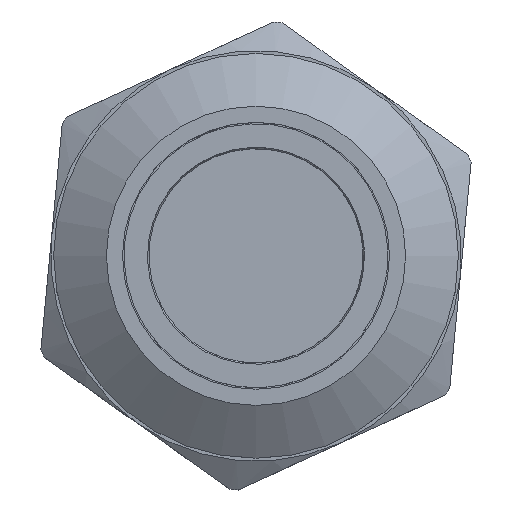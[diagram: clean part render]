
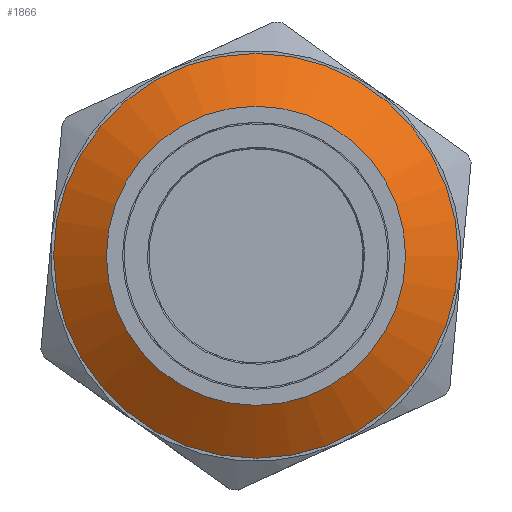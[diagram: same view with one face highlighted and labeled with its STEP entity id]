
A CAD part, top view. The second image highlights one B-rep face of the part: STEP entity #1866.
In plain terms, the highlighted conical face has half-angle 56.31 degrees and reference radius 6.9 mm.
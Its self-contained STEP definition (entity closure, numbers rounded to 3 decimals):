
#1546=CONICAL_SURFACE('',#4279,6.9,56.31);
#1866=ADVANCED_FACE('',(#2214,#2215),#1546,.T.);
#2214=FACE_BOUND('',#2310,.T.);
#2215=FACE_BOUND('',#2311,.T.);
#2310=EDGE_LOOP('',(#2578));
#2311=EDGE_LOOP('',(#2579));
#2578=ORIENTED_EDGE('',*,*,#3735,.F.);
#2579=ORIENTED_EDGE('',*,*,#3734,.F.);
#3435=VERTEX_POINT('',#5672);
#3436=VERTEX_POINT('',#5675);
#3734=EDGE_CURVE('',#3435,#3435,#4175,.T.);
#3735=EDGE_CURVE('',#3436,#3436,#4176,.T.);
#4175=CIRCLE('',#4260,6.9);
#4176=CIRCLE('',#4262,5.1);
#4260=AXIS2_PLACEMENT_3D('',#5671,#4558,#4559);
#4262=AXIS2_PLACEMENT_3D('',#5674,#4562,#4563);
#4279=AXIS2_PLACEMENT_3D('',#6428,#4596,#4597);
#4558=DIRECTION('',(0.,0.,-1.));
#4559=DIRECTION('',(-1.,0.,0.));
#4562=DIRECTION('',(0.,0.,1.));
#4563=DIRECTION('',(-1.,0.,0.));
#4596=DIRECTION('',(0.,0.,-1.));
#4597=DIRECTION('',(-1.,0.,0.));
#5671=CARTESIAN_POINT('',(0.,0.,10.1));
#5672=CARTESIAN_POINT('',(-6.9,0.,10.1));
#5674=CARTESIAN_POINT('',(0.,0.,11.3));
#5675=CARTESIAN_POINT('',(-5.1,0.,11.3));
#6428=CARTESIAN_POINT('',(0.,0.,10.1));
